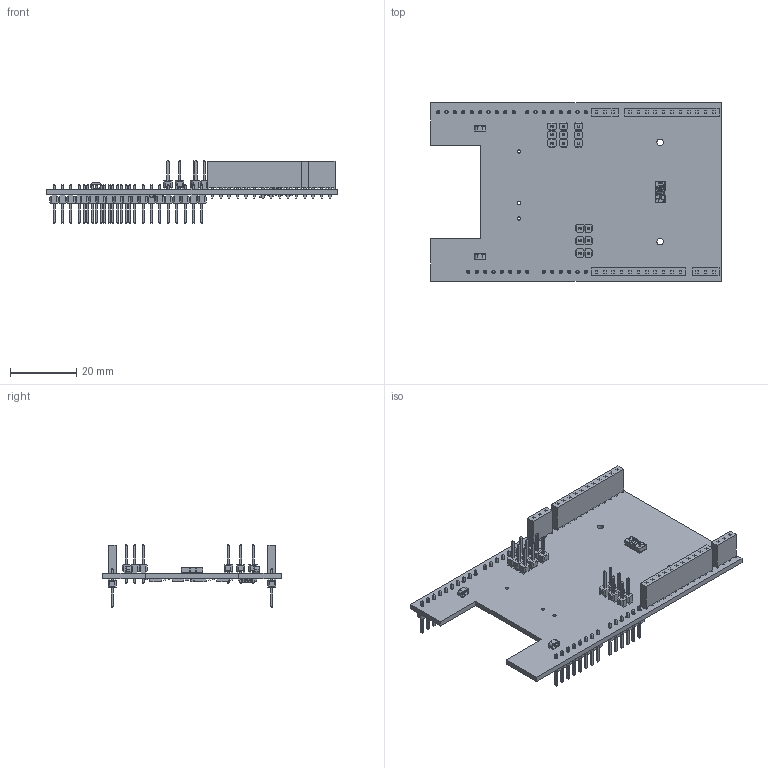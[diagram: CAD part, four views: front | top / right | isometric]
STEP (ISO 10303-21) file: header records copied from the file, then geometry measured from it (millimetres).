
FILE_DESCRIPTION(('Open CASCADE Model'),'2;1');
FILE_NAME('Open CASCADE Shape Model','2022-07-11T17:03:52',('Author'),( 'Open CASCADE'),'Open CASCADE STEP processor 6.8','Open CASCADE 6.8' ,'Unknown');
FILE_SCHEMA(('AUTOMOTIVE_DESIGN { 1 0 10303 214 1 1 1 1 }'));
Length unit declared in the file: millimetre
Products named in the file (107): PCB; Board; Open CASCADE STEP translator 6.8 1.1.1; GND2; s1751-46r; GND1; R2; 6156206288; Extruded; J6_Left; SSW-111-01-G-S_RGB8421504; _T1SSW-111-01-G-S; _P2SSW-111-01-G-S; J12_Left; SSW-103-01-G-S_RGB8421504; _T1SSW-103-01-G-S; _P2SSW-103-01-G-S; J12_Right; J6_Right; J1; m20-9990245_asm; M20-999-MOULD; M20-999-PIN; C21; 6156200048; C19; U4; MZ_Plus_ES0_MODULE_ASSEMBLY; U8; 6156204848; U7; U5; U3; User_Library-SOT-23-5L; U2; U1; R41; 6156193328; R40; 5872851648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
Assembly tree (176 placements, depth 4):
  PCB
    Board
      Open CASCADE STEP translator 6.8 1.1.1
    GND2
      s1751-46r
    GND1
      s1751-46r
    R2
      6156206288
        Extruded
    J6_Left
      SSW-111-01-G-S_RGB8421504
        _T1SSW-111-01-G-S
        _P2SSW-111-01-G-S
    J12_Left
      SSW-103-01-G-S_RGB8421504
        _T1SSW-103-01-G-S
        _P2SSW-103-01-G-S
    J12_Right
      SSW-103-01-G-S_RGB8421504
        _T1SSW-103-01-G-S
        _P2SSW-103-01-G-S
    J6_Right
      SSW-111-01-G-S_RGB8421504
        _T1SSW-111-01-G-S
        _P2SSW-111-01-G-S
    J1
      m20-9990245_asm
        M20-999-MOULD
        M20-999-PIN  x2
    C21
      6156200048
        Extruded
    C19
      6156200048
        Extruded
    U4
      MZ_Plus_ES0_MODULE_ASSEMBLY
    U8
      6156204848
        Extruded
    U7
      6156204848
        Extruded
    U5
      6156204848
        Extruded
    U3
      User_Library-SOT-23-5L
    U2
      User_Library-SOT-23-5L
    U1
      User_Library-SOT-23-5L
    R41
      6156193328
        Extruded
    R40
      5872851648
        Extruded
    R30
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Bounding box: 88 x 54 x 18.86 mm (x, y, z)
Volume: 8910.7 mm3; surface area: 15848.8 mm2
Topology: 120 solids, 120 shells, 3546 faces, 8972 edges, 5692 vertices
Faces by surface type: plane 3155, cylinder 311, cone 38, sphere 24, bspline 18
Full cylindrical faces by diameter (mm): 0.3 x8, 1 x50, 1.1 x28, 2 x2
Entity records: 60857 total; most frequent: CARTESIAN_POINT 11245, ORIENTED_EDGE 9724, DIRECTION 9234, EDGE_CURVE 4862, LINE 4328, VECTOR 4328, VERTEX_POINT 3144, AXIS2_PLACEMENT_3D 2453
